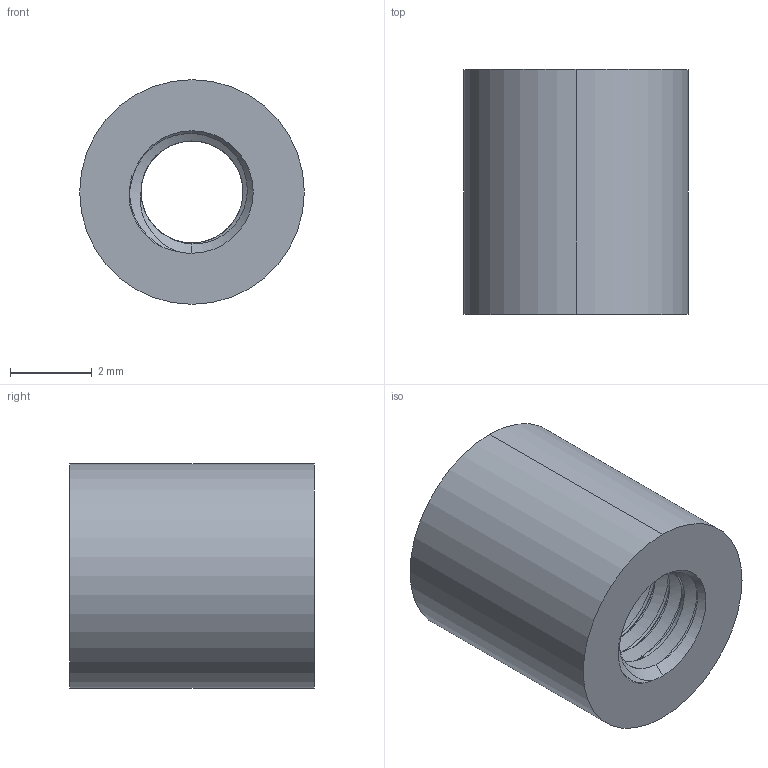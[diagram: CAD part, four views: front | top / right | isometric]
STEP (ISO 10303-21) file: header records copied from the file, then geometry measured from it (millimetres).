
FILE_DESCRIPTION (( 'STEP AP214' ), '1' );
FILE_NAME ('PCSS-6.STEP', '2014-12-30T11:06:29', ( 'Tester2' ), ( '' ), 'SwSTEP 2.0', 'SolidWorks 2012', '' );
FILE_SCHEMA (( 'AUTOMOTIVE_DESIGN' ));
Length unit declared in the file: millimetre
Products named in the file (1): PCSS-6
Bounding box: 5.5 x 6 x 5.5 mm (x, y, z)
Volume: 103.5 mm3; surface area: 229 mm2
Topology: 1 solids, 1 shells, 22 faces, 58 edges, 38 vertices
Faces by surface type: cone 6, cylinder 6, bspline 6, plane 4
Entity records: 3928 total; most frequent: CARTESIAN_POINT 3428, ORIENTED_EDGE 116, DIRECTION 76, EDGE_CURVE 58, VERTEX_POINT 38, AXIS2_PLACEMENT_3D 31, EDGE_LOOP 24, FACE_OUTER_BOUND 22
